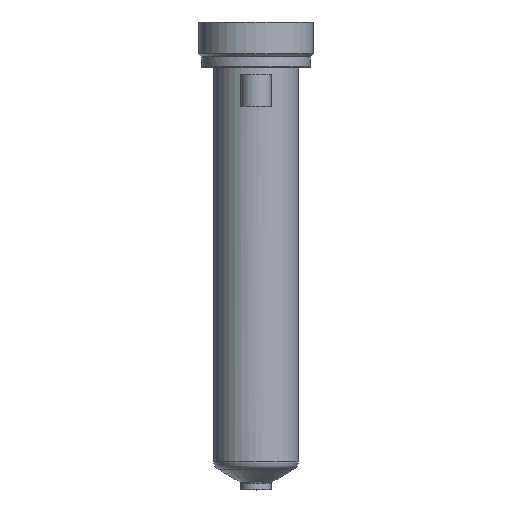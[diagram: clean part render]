
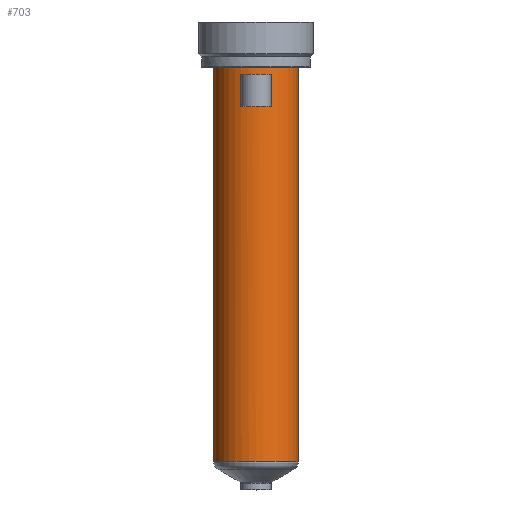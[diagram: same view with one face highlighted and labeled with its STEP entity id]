
A CAD part, top view. The second image highlights one B-rep face of the part: STEP entity #703.
In plain terms, the highlighted cylindrical face has radius 14 mm (diameter 28 mm), a partial arc.
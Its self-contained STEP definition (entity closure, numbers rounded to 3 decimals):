
#195=DIRECTION('',(0.,-1.,0.));
#196=VECTOR('',#195,130.583);
#197=CARTESIAN_POINT('',(14.,0.,0.));
#198=LINE('',#197,#196);
#199=CARTESIAN_POINT('',(0.,-130.583,0.));
#200=DIRECTION('',(0.,1.,0.));
#201=DIRECTION('',(-1.,0.,0.));
#202=AXIS2_PLACEMENT_3D('',#199,#200,#201);
#204=DIRECTION('',(0.,1.,0.));
#205=VECTOR('',#204,130.583);
#206=CARTESIAN_POINT('',(-14.,-130.583,0.));
#207=LINE('',#206,#205);
#208=CARTESIAN_POINT('',(0.,0.,0.));
#209=DIRECTION('',(0.,1.,0.));
#210=DIRECTION('',(-1.,0.,0.));
#211=AXIS2_PLACEMENT_3D('',#208,#209,#210);
#289=DIRECTION('',(0.,-1.,0.));
#290=VECTOR('',#289,10.5);
#291=CARTESIAN_POINT('',(-5.,-2.5,13.077));
#292=LINE('',#291,#290);
#297=CARTESIAN_POINT('',(0.,-13.,0.));
#298=DIRECTION('',(0.,1.,0.));
#299=DIRECTION('',(-0.357,0.,0.934));
#300=AXIS2_PLACEMENT_3D('',#297,#298,#299);
#332=CARTESIAN_POINT('',(0.,-2.5,0.));
#333=DIRECTION('',(0.,-1.,0.));
#334=DIRECTION('',(0.357,0.,0.934));
#335=AXIS2_PLACEMENT_3D('',#332,#333,#334);
#337=DIRECTION('',(0.,-1.,0.));
#338=VECTOR('',#337,10.5);
#339=CARTESIAN_POINT('',(5.,-2.5,13.077));
#340=LINE('',#339,#338);
#398=CARTESIAN_POINT('',(-14.,0.,0.));
#399=CARTESIAN_POINT('',(14.,0.,0.));
#400=VERTEX_POINT('',#398);
#401=VERTEX_POINT('',#399);
#410=CARTESIAN_POINT('',(5.,-2.5,13.077));
#411=VERTEX_POINT('',#410);
#412=CARTESIAN_POINT('',(-5.,-2.5,13.077));
#413=VERTEX_POINT('',#412);
#450=CARTESIAN_POINT('',(14.,-130.583,0.));
#451=VERTEX_POINT('',#450);
#460=CARTESIAN_POINT('',(-14.,-130.583,0.));
#461=VERTEX_POINT('',#460);
#462=CARTESIAN_POINT('',(-5.,-13.,13.077));
#463=CARTESIAN_POINT('',(5.,-13.,13.077));
#464=VERTEX_POINT('',#462);
#465=VERTEX_POINT('',#463);
#681=CARTESIAN_POINT('',(0.,16.4,0.));
#682=DIRECTION('',(0.,-1.,0.));
#683=DIRECTION('',(-1.,0.,0.));
#684=AXIS2_PLACEMENT_3D('',#681,#682,#683);
#685=CYLINDRICAL_SURFACE('',#684,14.);
#686=ORIENTED_EDGE('',*,*,#675,.T.);
#688=ORIENTED_EDGE('',*,*,#687,.F.);
#689=ORIENTED_EDGE('',*,*,#671,.T.);
#690=ORIENTED_EDGE('',*,*,#661,.T.);
#691=EDGE_LOOP('',(#686,#688,#689,#690));
#692=FACE_OUTER_BOUND('',#691,.F.);
#694=ORIENTED_EDGE('',*,*,#693,.T.);
#696=ORIENTED_EDGE('',*,*,#695,.T.);
#698=ORIENTED_EDGE('',*,*,#697,.F.);
#700=ORIENTED_EDGE('',*,*,#699,.T.);
#701=EDGE_LOOP('',(#694,#696,#698,#700));
#702=FACE_BOUND('',#701,.F.);
#703=ADVANCED_FACE('',(#692,#702),#685,.T.);
#203=CIRCLE('',#202,14.);
#212=CIRCLE('',#211,14.);
#301=CIRCLE('',#300,14.);
#336=CIRCLE('',#335,14.);
#661=EDGE_CURVE('',#400,#401,#212,.T.);
#671=EDGE_CURVE('',#461,#400,#207,.T.);
#675=EDGE_CURVE('',#401,#451,#198,.T.);
#687=EDGE_CURVE('',#461,#451,#203,.T.);
#693=EDGE_CURVE('',#413,#464,#292,.T.);
#695=EDGE_CURVE('',#464,#465,#301,.T.);
#697=EDGE_CURVE('',#411,#465,#340,.T.);
#699=EDGE_CURVE('',#411,#413,#336,.T.);
